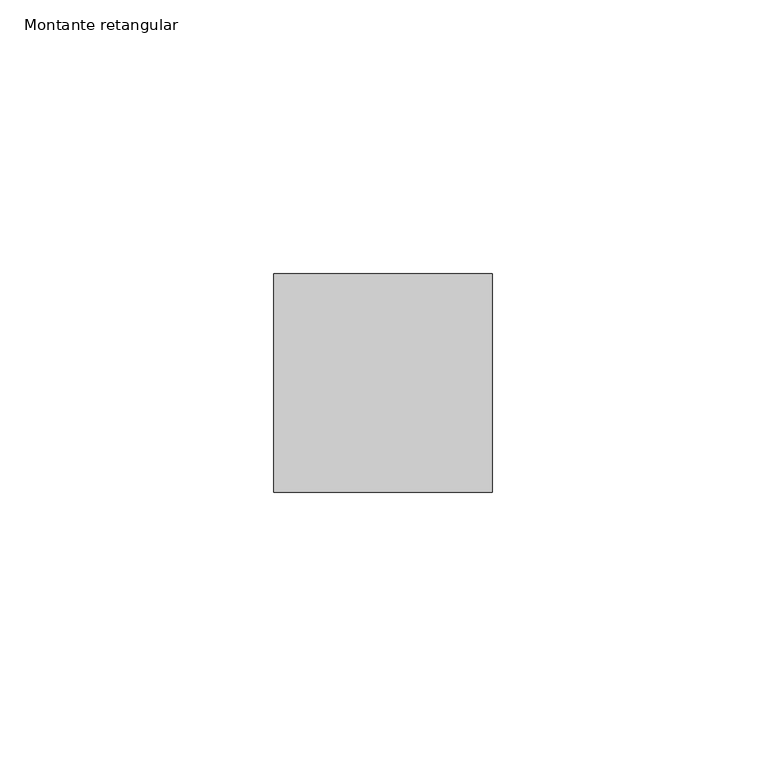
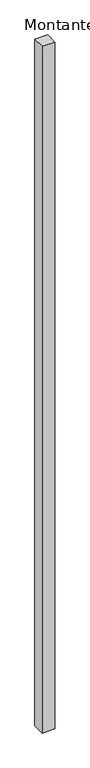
"""IFC4 building model written with IfcOpenShell, lengths in millimetres: member geometry, Montante retangular : RIPADO CUMARU 4x4."""

from ifc_helpers import new_model, si_unit, frame, origin, place, context, project, spatial, polyline, outline, extrude, source, transform, mapped, element, save


def montante_retangular_66be1dba(model_context):
    return source(origin(), model_context, "Body", "SweptSolid", [
        extrude(outline(polyline([(20.0, 40.0), (20.0, 0.0), (-20.0, 0.0), (-20.0, 40.0), (20.0, 40.0)])), frame((0.0, 0.0, -2300.0), z_axis=(0.0, 0.0, 1.0), x_axis=(1.0, 0.0, 0.0)), (0.0, 0.0, 1.0), 2300.0),
    ])


if __name__ == "__main__":
    model = new_model("IFC4")
    model_context = context("Model", 3, world=origin())
    ifc_project = project(units=[si_unit("LENGTHUNIT", "METRE", prefix="MILLI")], contexts=[model_context])
    site = spatial("IfcSite", under=ifc_project)
    building = spatial("IfcBuilding", under=site)
    placement = place(None, origin())
    montante_retangular_shape = montante_retangular_66be1dba(model_context)
    element("IfcMember", 1, ObjectType="Montante retangular : RIPADO CUMARU 4x4", at=placement, inside=building, context=model_context, shape_type="MappedRepresentation", body=[
        mapped(montante_retangular_shape, transform((0.0, 0.0, 0.0), x_axis=(1.0, 0.0, 0.0), y_axis=(0.0, 1.0, 0.0), z_axis=(0.0, 0.0, 1.0))),
    ])
    save(model, "model.ifc")
